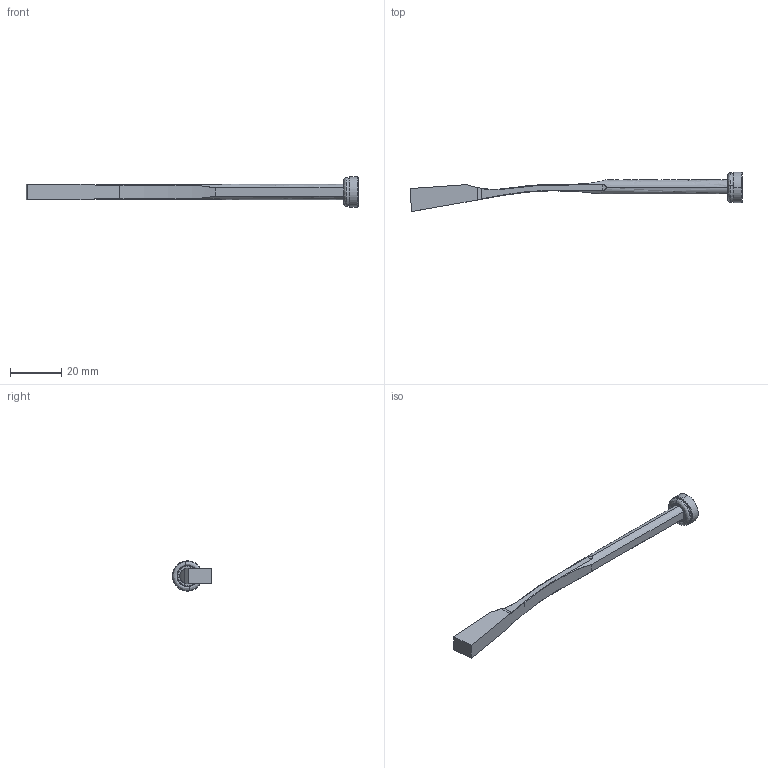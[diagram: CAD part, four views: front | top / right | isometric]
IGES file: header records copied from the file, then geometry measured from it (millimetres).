
Start section: START RECORD GO HERE.
Global section: file name: pw060622_ejection.igs; native system: DASSAULT SYSTEMES CATIA V5 R20 - www.3ds.com; preprocessor: CATIA Version 5 Release 20 ; author: Utente; organization: NB04-ASUS; date: 20201108.134821; units: millimetre
Bounding box: 129.5 x 15.28 x 11.8 mm (x, y, z)
Surface area: 3841.2 mm2 (no closed solid volume)
Topology: 0 solids, 0 shells, 91 faces, 411 edges, 407 vertices
Faces by surface type: revolution 55, plane 28, bspline 8
